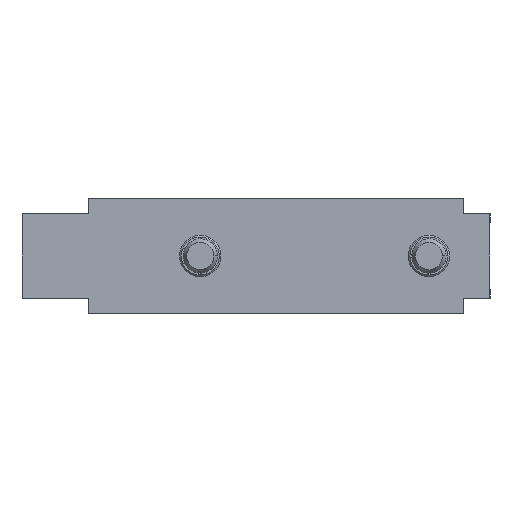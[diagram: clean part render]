
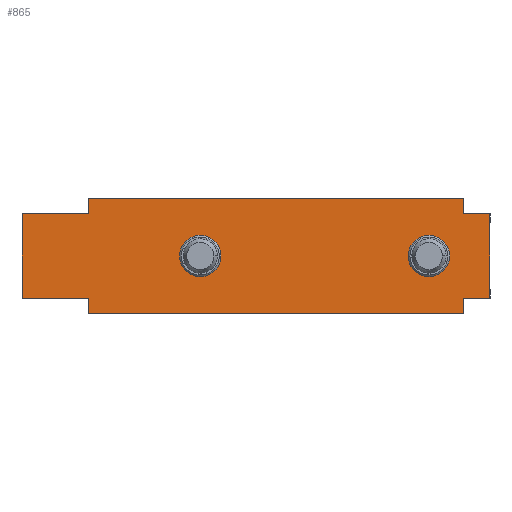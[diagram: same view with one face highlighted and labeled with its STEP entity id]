
A CAD part, left-side view. The second image highlights one B-rep face of the part: STEP entity #865.
In plain terms, the highlighted planar face has unit normal (-1, 0, 0).
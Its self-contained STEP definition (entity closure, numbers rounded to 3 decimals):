
#37 = ORIENTED_EDGE ( 'NONE', *, *, #771, .T. ) ;
#38 = ORIENTED_EDGE ( 'NONE', *, *, #446, .F. ) ;
#39 = ORIENTED_EDGE ( 'NONE', *, *, #619, .F. ) ;
#40 = ORIENTED_EDGE ( 'NONE', *, *, #714, .F. ) ;
#41 = ORIENTED_EDGE ( 'NONE', *, *, #456, .F. ) ;
#42 = ORIENTED_EDGE ( 'NONE', *, *, #682, .F. ) ;
#43 = ORIENTED_EDGE ( 'NONE', *, *, #583, .F. ) ;
#44 = ORIENTED_EDGE ( 'NONE', *, *, #403, .T. ) ;
#45 = ORIENTED_EDGE ( 'NONE', *, *, #495, .F. ) ;
#46 = ORIENTED_EDGE ( 'NONE', *, *, #563, .F. ) ;
#47 = ORIENTED_EDGE ( 'NONE', *, *, #385, .F. ) ;
#51 = ORIENTED_EDGE ( 'NONE', *, *, #457, .T. ) ;
#151 = CARTESIAN_POINT ( 'NONE',  ( 0.65, -4.9, -8. ) ) ;
#168 = DIRECTION ( 'NONE',  ( 0., 1., 0. ) ) ;
#169 = DIRECTION ( 'NONE',  ( -1., 0., 0. ) ) ;
#170 = CARTESIAN_POINT ( 'NONE',  ( 0.65, 32., 0. ) ) ;
#188 = DIRECTION ( 'NONE',  ( 0., -1., 0. ) ) ;
#204 = CARTESIAN_POINT ( 'NONE',  ( 0.65, -8.55, 5.9 ) ) ;
#236 = EDGE_LOOP ( 'NONE', ( #37, #38, #39, #40, #41, #42, #43, #44, #45, #46, #47, #51 ) ) ;
#237 = EDGE_LOOP ( 'NONE', ( #2542, #2543 ) ) ;
#240 = EDGE_LOOP ( 'NONE', ( #2540, #2541 ) ) ;
#356 = CIRCLE ( 'NONE', #656, 2.9 ) ;
#368 = LINE ( 'NONE', #204, #1537 ) ;
#375 = EDGE_CURVE ( 'NONE', #1422, #1320, #356, .T. ) ;
#385 = EDGE_CURVE ( 'NONE', #1326, #1321, #368, .T. ) ;
#396 = AXIS2_PLACEMENT_3D ( 'NONE', #2474, #2463, #2459 ) ;
#403 = EDGE_CURVE ( 'NONE', #1343, #1436, #1558, .T. ) ;
#423 = EDGE_CURVE ( 'NONE', #1426, #1442, #1601, .T. ) ;
#446 = EDGE_CURVE ( 'NONE', #1531, #1325, #1622, .T. ) ;
#456 = EDGE_CURVE ( 'NONE', #1341, #1316, #1642, .T. ) ;
#457 = EDGE_CURVE ( 'NONE', #1326, #1430, #1636, .T. ) ;
#492 = EDGE_CURVE ( 'NONE', #1320, #1422, #2810, .T. ) ;
#495 = EDGE_CURVE ( 'NONE', #1327, #1436, #1685, .T. ) ;
#540 = AXIS2_PLACEMENT_3D ( 'NONE', #2757, #2501, #2510 ) ;
#563 = EDGE_CURVE ( 'NONE', #1321, #1327, #2888, .T. ) ;
#583 = EDGE_CURVE ( 'NONE', #1343, #1434, #2914, .T. ) ;
#586 = EDGE_CURVE ( 'NONE', #1442, #1426, #2921, .T. ) ;
#619 = EDGE_CURVE ( 'NONE', #1510, #1531, #2959, .T. ) ;
#656 = AXIS2_PLACEMENT_3D ( 'NONE', #170, #169, #168 ) ;
#677 = AXIS2_PLACEMENT_3D ( 'NONE', #1246, #1242, #1238 ) ;
#682 = EDGE_CURVE ( 'NONE', #1434, #1341, #3012, .T. ) ;
#714 = EDGE_CURVE ( 'NONE', #1316, #1510, #3044, .T. ) ;
#771 = EDGE_CURVE ( 'NONE', #1430, #1325, #3093, .T. ) ;
#793 = AXIS2_PLACEMENT_3D ( 'NONE', #2548, #2803, #2802 ) ;
#865 = ADVANCED_FACE ( 'NONE', ( #2660, #2661, #2665 ), #2475, .F. ) ;
#905 = DIRECTION ( 'NONE',  ( 0., 0., -1. ) ) ;
#907 = CARTESIAN_POINT ( 'NONE',  ( 0.65, -8.55, 5.9 ) ) ;
#1105 = CARTESIAN_POINT ( 'NONE',  ( 0.65, -4.9, -8. ) ) ;
#1132 = DIRECTION ( 'NONE',  ( 0., 0., 1. ) ) ;
#1133 = DIRECTION ( 'NONE',  ( 0., 0., 1. ) ) ;
#1134 = DIRECTION ( 'NONE',  ( 0., 1., 0. ) ) ;
#1135 = CARTESIAN_POINT ( 'NONE',  ( 0.65, 47.6, -5.9 ) ) ;
#1184 = DIRECTION ( 'NONE',  ( 0., 0., 1. ) ) ;
#1219 = CARTESIAN_POINT ( 'NONE',  ( 0.65, 47.6, -8. ) ) ;
#1238 = DIRECTION ( 'NONE',  ( 0., 1., 0. ) ) ;
#1242 = DIRECTION ( 'NONE',  ( -1., 0., 0. ) ) ;
#1246 = CARTESIAN_POINT ( 'NONE',  ( 0.65, 0., 0. ) ) ;
#1316 = VERTEX_POINT ( 'NONE', #2398 ) ;
#1320 = VERTEX_POINT ( 'NONE', #2396 ) ;
#1321 = VERTEX_POINT ( 'NONE', #2395 ) ;
#1325 = VERTEX_POINT ( 'NONE', #2391 ) ;
#1326 = VERTEX_POINT ( 'NONE', #2390 ) ;
#1327 = VERTEX_POINT ( 'NONE', #2389 ) ;
#1341 = VERTEX_POINT ( 'NONE', #2373 ) ;
#1343 = VERTEX_POINT ( 'NONE', #2371 ) ;
#1422 = VERTEX_POINT ( 'NONE', #2284 ) ;
#1426 = VERTEX_POINT ( 'NONE', #2279 ) ;
#1430 = VERTEX_POINT ( 'NONE', #2273 ) ;
#1434 = VERTEX_POINT ( 'NONE', #2269 ) ;
#1436 = VERTEX_POINT ( 'NONE', #2267 ) ;
#1442 = VERTEX_POINT ( 'NONE', #2261 ) ;
#1450 = DIRECTION ( 'NONE',  ( 0., 0., 1. ) ) ;
#1451 = CARTESIAN_POINT ( 'NONE',  ( 0.65, 56.95, 5.9 ) ) ;
#1505 = DIRECTION ( 'NONE',  ( 0., 0., 1. ) ) ;
#1508 = CARTESIAN_POINT ( 'NONE',  ( 0.65, 47.6, -8. ) ) ;
#1510 = VERTEX_POINT ( 'NONE', #2233 ) ;
#1531 = VERTEX_POINT ( 'NONE', #2226 ) ;
#1537 = VECTOR ( 'NONE', #188, 1000. ) ;
#1558 = LINE ( 'NONE', #151, #1562 ) ;
#1562 = VECTOR ( 'NONE', #1184, 1000. ) ;
#1601 = CIRCLE ( 'NONE', #677, 2.9 ) ;
#1622 = LINE ( 'NONE', #1219, #1631 ) ;
#1631 = VECTOR ( 'NONE', #1132, 1000. ) ;
#1636 = LINE ( 'NONE', #1105, #1644 ) ;
#1642 = LINE ( 'NONE', #1135, #1643 ) ;
#1643 = VECTOR ( 'NONE', #1134, 1000. ) ;
#1644 = VECTOR ( 'NONE', #1133, 1000. ) ;
#1685 = LINE ( 'NONE', #2798, #2813 ) ;
#1735 = DIRECTION ( 'NONE',  ( 0., -1., 0. ) ) ;
#1736 = CARTESIAN_POINT ( 'NONE',  ( 0.65, 47.6, 5.9 ) ) ;
#2153 = DIRECTION ( 'NONE',  ( 0., 1., 0. ) ) ;
#2156 = CARTESIAN_POINT ( 'NONE',  ( 0.65, 47.6, 8. ) ) ;
#2226 = CARTESIAN_POINT ( 'NONE',  ( 0.65, 47.6, 5.9 ) ) ;
#2233 = CARTESIAN_POINT ( 'NONE',  ( 0.65, 56.95, 5.9 ) ) ;
#2261 = CARTESIAN_POINT ( 'NONE',  ( 0.65, -2.9, 0. ) ) ;
#2267 = CARTESIAN_POINT ( 'NONE',  ( 0.65, -4.9, -5.9 ) ) ;
#2269 = CARTESIAN_POINT ( 'NONE',  ( 0.65, 47.6, -8. ) ) ;
#2273 = CARTESIAN_POINT ( 'NONE',  ( 0.65, -4.9, 8. ) ) ;
#2279 = CARTESIAN_POINT ( 'NONE',  ( 0.65, 2.9, 0. ) ) ;
#2284 = CARTESIAN_POINT ( 'NONE',  ( 0.65, 34.9, 0. ) ) ;
#2371 = CARTESIAN_POINT ( 'NONE',  ( 0.65, -4.9, -8. ) ) ;
#2373 = CARTESIAN_POINT ( 'NONE',  ( 0.65, 47.6, -5.9 ) ) ;
#2389 = CARTESIAN_POINT ( 'NONE',  ( 0.65, -8.55, -5.9 ) ) ;
#2390 = CARTESIAN_POINT ( 'NONE',  ( 0.65, -4.9, 5.9 ) ) ;
#2391 = CARTESIAN_POINT ( 'NONE',  ( 0.65, 47.6, 8. ) ) ;
#2395 = CARTESIAN_POINT ( 'NONE',  ( 0.65, -8.55, 5.9 ) ) ;
#2396 = CARTESIAN_POINT ( 'NONE',  ( 0.65, 29.1, 0. ) ) ;
#2398 = CARTESIAN_POINT ( 'NONE',  ( 0.65, 56.95, -5.9 ) ) ;
#2459 = DIRECTION ( 'NONE',  ( 0., -1., 0. ) ) ;
#2463 = DIRECTION ( 'NONE',  ( 1., 0., 0. ) ) ;
#2474 = CARTESIAN_POINT ( 'NONE',  ( 0.65, 47.6, -8. ) ) ;
#2475 = PLANE ( 'NONE',  #396 ) ;
#2501 = DIRECTION ( 'NONE',  ( -1., 0., 0. ) ) ;
#2510 = DIRECTION ( 'NONE',  ( 0., 1., 0. ) ) ;
#2540 = ORIENTED_EDGE ( 'NONE', *, *, #375, .F. ) ;
#2541 = ORIENTED_EDGE ( 'NONE', *, *, #492, .F. ) ;
#2542 = ORIENTED_EDGE ( 'NONE', *, *, #423, .F. ) ;
#2543 = ORIENTED_EDGE ( 'NONE', *, *, #586, .F. ) ;
#2548 = CARTESIAN_POINT ( 'NONE',  ( 0.65, 32., 0. ) ) ;
#2660 = FACE_BOUND ( 'NONE', #240, .T. ) ;
#2661 = FACE_BOUND ( 'NONE', #237, .T. ) ;
#2665 = FACE_OUTER_BOUND ( 'NONE', #236, .T. ) ;
#2754 = DIRECTION ( 'NONE',  ( 0., 1., 0. ) ) ;
#2755 = CARTESIAN_POINT ( 'NONE',  ( 0.65, 47.6, -8. ) ) ;
#2757 = CARTESIAN_POINT ( 'NONE',  ( 0.65, 0., 0. ) ) ;
#2784 = DIRECTION ( 'NONE',  ( 0., 1., 0. ) ) ;
#2798 = CARTESIAN_POINT ( 'NONE',  ( 0.65, -8.55, -5.9 ) ) ;
#2802 = DIRECTION ( 'NONE',  ( 0., 1., 0. ) ) ;
#2803 = DIRECTION ( 'NONE',  ( -1., 0., 0. ) ) ;
#2810 = CIRCLE ( 'NONE', #793, 2.9 ) ;
#2813 = VECTOR ( 'NONE', #2784, 1000. ) ;
#2888 = LINE ( 'NONE', #907, #2889 ) ;
#2889 = VECTOR ( 'NONE', #905, 1000. ) ;
#2914 = LINE ( 'NONE', #2755, #2915 ) ;
#2915 = VECTOR ( 'NONE', #2754, 1000. ) ;
#2921 = CIRCLE ( 'NONE', #540, 2.9 ) ;
#2959 = LINE ( 'NONE', #1736, #2960 ) ;
#2960 = VECTOR ( 'NONE', #1735, 1000. ) ;
#3012 = LINE ( 'NONE', #1508, #3013 ) ;
#3013 = VECTOR ( 'NONE', #1505, 1000. ) ;
#3044 = LINE ( 'NONE', #1451, #3045 ) ;
#3045 = VECTOR ( 'NONE', #1450, 1000. ) ;
#3093 = LINE ( 'NONE', #2156, #3094 ) ;
#3094 = VECTOR ( 'NONE', #2153, 1000. ) ;
